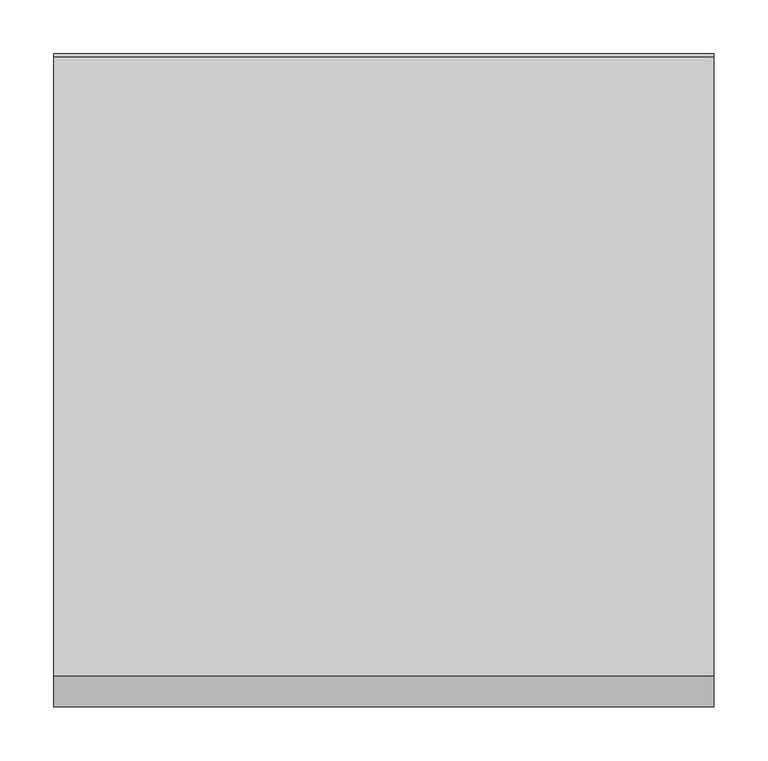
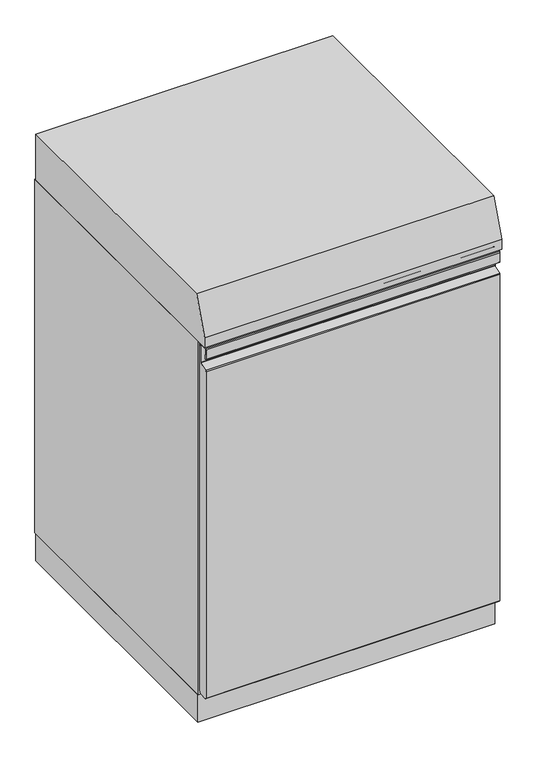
"""IFC4 building model written with IfcOpenShell, lengths in millimetres: proxy geometry, 13101250_DEU_OSP1224WBL : 331B2PSW_DEU_13101250_OSP1224WBL."""

from ifc_helpers import new_model, si_unit, point, frame, frame_2d, origin, origin_with_axes, place, context, project, spatial, polyline, circle_curve, trimmed, segment, composite_curve, outline, extrude, faceted_brep, source, transform, mapped, element, save


def specialty_equipment_2d9e6b35(model_context):
    return source(origin(), model_context, "Body", "SolidModel", [
        extrude(outline(composite_curve([segment(polyline([(2.6999996, 823.5), (2.6999996, 814.5999985)]), True, "CONTINUOUS"), segment(trimmed(circle_curve(frame_2d((1.5999996, 814.5999985)), 1.1), [point((2.6999996, 814.5999985))], [point((0.4999996, 814.5999985))], False, "CARTESIAN"), True, "CONTINUOUS"), segment(polyline([(0.4999996, 814.5999985), (0.4999996, 835.0000001)]), True, "CONTINUOUS"), segment(trimmed(circle_curve(frame_2d((2.4999995, 835.0000001)), 1.9999999), [point((0.4999996, 835.0000001))], [point((2.4999995, 837.0))], False, "CARTESIAN"), True, "CONTINUOUS"), segment(polyline([(2.4999995, 837.0), (21.0, 837.0)]), True, "CONTINUOUS"), segment(trimmed(circle_curve(frame_2d((21.0, 835.0)), 2.0), [point((21.0, 837.0))], [point((23.0, 835.0))], False, "CARTESIAN"), True, "CONTINUOUS"), segment(polyline([(23.0, 835.0), (23.0, 78.1000214), (19.5, 72.5), (2.4999995, 72.5), (0.4999996, 74.4999999), (0.4999996, 787.6206147)]), True, "CONTINUOUS"), segment(trimmed(circle_curve(frame_2d((2.4999996, 787.6206147)), 2.0), [point((0.4999996, 787.6206147))], [point((1.8159593, 789.5))], False, "CARTESIAN"), True, "CONTINUOUS"), segment(polyline([(1.8159593, 789.5), (18.8147235, 795.6870442)]), True, "CONTINUOUS"), segment(trimmed(circle_curve(frame_2d((18.8147235, 796.3723207)), 0.6852765), [point((18.8147235, 795.6870442))], [point((19.5, 796.3723207))], True, "CARTESIAN"), True, "CONTINUOUS"), segment(polyline([(19.5, 796.3723207), (19.5, 833.5), (20.5, 833.5), (20.5, 835.0)]), True, "CONTINUOUS"), segment(trimmed(circle_curve(frame_2d((19.5, 835.0)), 1.0), [point((20.5, 835.0))], [point((19.5, 836.0))], True, "CARTESIAN"), True, "CONTINUOUS"), segment(polyline([(19.5, 836.0), (2.4999995, 836.0)]), True, "CONTINUOUS"), segment(trimmed(circle_curve(frame_2d((2.4999995, 835.0000001)), 0.9999999), [point((2.4999995, 836.0))], [point((1.4999996, 835.0000001))], True, "CARTESIAN"), True, "CONTINUOUS"), segment(polyline([(1.4999996, 835.0000001), (1.4999996, 823.5), (2.6999996, 823.5)]), True, "CONTINUOUS")], self_intersect=False)), frame((-303.5, 0.0, 0.0), z_axis=(1.0, 0.0, 0.0), x_axis=(0.0, 1.0, 0.0)), (0.0, 0.0, 1.0), 607.0),
        extrude(outline(polyline([(28.370519, 941.5), (603.9999916, 941.5), (603.9999916, 841.5), (0.0, 841.5), (0.0, 863.5526396), (28.370519, 941.5)])), frame((-306.75, 0.0, 0.0), z_axis=(1.0, 0.0, 0.0), x_axis=(0.0, 1.0, 0.0)), (0.0, 0.0, 1.0), 613.5),
        extrude(outline(composite_curve([segment(trimmed(circle_curve(frame_2d((230.25, 73.5499878)), 30.0268488), [point((200.2231512, 73.5499878))], [point((260.2768488, 73.5499878))], False, "CARTESIAN"), True, "CONTINUOUS"), segment(trimmed(circle_curve(frame_2d((230.25, 73.5499878)), 30.0268488), [point((260.2768488, 73.5499878))], [point((200.2231512, 73.5499878))], False, "CARTESIAN"), True, "CONTINUOUS")], self_intersect=False)), origin_with_axes(), (0.0, 0.0, 1.0), 69.5),
        extrude(outline(composite_curve([segment(trimmed(circle_curve(frame_2d((-230.25, 73.5499878)), 30.0268488), [point((-260.2768488, 73.5499878))], [point((-200.2231512, 73.5499878))], False, "CARTESIAN"), True, "CONTINUOUS"), segment(trimmed(circle_curve(frame_2d((-230.25, 73.5499878)), 30.0268488), [point((-200.2231512, 73.5499878))], [point((-260.2768488, 73.5499878))], False, "CARTESIAN"), True, "CONTINUOUS")], self_intersect=False)), origin_with_axes(), (0.0, 0.0, 1.0), 69.5),
        extrude(outline(composite_curve([segment(trimmed(circle_curve(frame_2d((230.25, 552.5864926)), 30.0), [point((200.25, 552.5864926))], [point((260.25, 552.5864926))], False, "CARTESIAN"), True, "CONTINUOUS"), segment(trimmed(circle_curve(frame_2d((230.25, 552.5864926)), 30.0), [point((260.25, 552.5864926))], [point((200.25, 552.5864926))], False, "CARTESIAN"), True, "CONTINUOUS")], self_intersect=False)), origin_with_axes(), (0.0, 0.0, 1.0), 69.5),
        extrude(outline(composite_curve([segment(trimmed(circle_curve(frame_2d((-230.25, 552.5864926)), 30.0), [point((-260.25, 552.5864926))], [point((-200.25, 552.5864926))], False, "CARTESIAN"), True, "CONTINUOUS"), segment(trimmed(circle_curve(frame_2d((-230.25, 552.5864926)), 30.0), [point((-200.25, 552.5864926))], [point((-260.25, 552.5864926))], False, "CARTESIAN"), True, "CONTINUOUS")], self_intersect=False)), origin_with_axes(), (0.0, 0.0, 1.0), 69.5),
        extrude(outline(composite_curve([segment(trimmed(circle_curve(frame_2d((25.0028687, -278.25)), 25.0), [point((25.0028687, -303.25))], [point((25.0028687, -253.25))], False, "CARTESIAN"), True, "CONTINUOUS"), segment(trimmed(circle_curve(frame_2d((25.0028687, -278.25)), 25.0), [point((25.0028687, -253.25))], [point((25.0028687, -303.25))], False, "CARTESIAN"), True, "CONTINUOUS")], self_intersect=False)), frame((0.0, 61.0499878, 0.0), z_axis=(0.0, 1.0, 0.0), x_axis=(0.0, 0.0, 1.0)), (0.0, 0.0, 1.0), 25.0),
        extrude(outline(composite_curve([segment(trimmed(circle_curve(frame_2d((25.0028687, -278.25)), 25.0), [point((25.0028687, -303.25))], [point((25.0028687, -253.25))], False, "CARTESIAN"), True, "CONTINUOUS"), segment(trimmed(circle_curve(frame_2d((25.0028687, -278.25)), 25.0), [point((25.0028687, -253.25))], [point((25.0028687, -303.25))], False, "CARTESIAN"), True, "CONTINUOUS")], self_intersect=False)), frame((0.0, 540.0864926, 0.0), z_axis=(0.0, 1.0, 0.0), x_axis=(0.0, 0.0, 1.0)), (0.0, 0.0, 1.0), 25.0),
        extrude(outline(composite_curve([segment(trimmed(circle_curve(frame_2d((25.0028687, 278.25)), 25.0), [point((25.0028687, 303.25))], [point((25.0028687, 253.25))], False, "CARTESIAN"), True, "CONTINUOUS"), segment(trimmed(circle_curve(frame_2d((25.0028687, 278.25)), 25.0), [point((25.0028687, 253.25))], [point((25.0028687, 303.25))], False, "CARTESIAN"), True, "CONTINUOUS")], self_intersect=False)), frame((0.0, 61.0499878, 0.0), z_axis=(0.0, 1.0, 0.0), x_axis=(0.0, 0.0, 1.0)), (0.0, 0.0, 1.0), 25.0),
        extrude(outline(composite_curve([segment(trimmed(circle_curve(frame_2d((25.0029118, 278.2964698)), 25.0), [point((25.0029118, 303.2964698))], [point((25.0029118, 253.2964698))], False, "CARTESIAN"), True, "CONTINUOUS"), segment(trimmed(circle_curve(frame_2d((25.0029118, 278.2964698)), 25.0), [point((25.0029118, 253.2964698))], [point((25.0029118, 303.2964698))], False, "CARTESIAN"), True, "CONTINUOUS")], self_intersect=False)), frame((0.0, 540.0499878, 0.0), z_axis=(0.0, 1.0, 0.0), x_axis=(0.0, 0.0, 1.0)), (0.0, 0.0, 1.0), 25.0),
        faceted_brep([(267.2522624, 51.0927658, 462.1369934), (267.2522624, 51.0927658, 556.1727893), (-267.2522624, 51.0927658, 556.1727893), (-267.2522624, 51.0927658, 462.1369934), (267.2522624, 602.5, 462.1369934), (-267.2522624, 602.5, 462.1369934), (-267.2522624, 602.5, 556.1727893), (267.2522624, 602.5, 556.1727893), (264.2522624, 53.1355045, 556.1727893), (-264.2522624, 53.1355045, 556.1727893), (-264.2522624, 600.5, 556.1727893), (264.2522624, 600.5, 556.1727893), (264.2522624, 53.1355045, 464.1369934), (-264.2522624, 53.1355045, 464.1369934), (-264.2522624, 600.5, 464.1369934), (264.2522624, 600.5, 464.1369934)], [[[0, 1, 2, 3]], [[4, 5, 6, 7]], [[1, 0, 4, 7]], [[2, 1, 7, 6], [8, 9, 10, 11]], [[3, 2, 6, 5]], [[0, 3, 5, 4]], [[12, 13, 9, 8]], [[14, 15, 11, 10]], [[13, 14, 10, 9]], [[13, 12, 15, 14]], [[15, 12, 8, 11]]]),
        faceted_brep([(267.2522624, 51.0927658, 279.1370239), (267.2522624, 51.0927658, 373.1728198), (-267.2522624, 51.0927658, 373.1728198), (-267.2522624, 51.0927658, 279.1370239), (267.2522624, 602.5, 279.1370239), (-267.2522624, 602.5, 279.1370239), (-267.2522624, 602.5, 373.1728198), (267.2522624, 602.5, 373.1728198), (264.2522624, 53.1355045, 373.1728198), (-264.2522624, 53.1355045, 373.1728198), (-264.2522624, 600.5, 373.1728198), (264.2522624, 600.5, 373.1728198), (264.2522624, 53.1355045, 281.1370239), (-264.2522624, 53.1355045, 281.1370239), (-264.2522624, 600.5, 281.1370239), (264.2522624, 600.5, 281.1370239)], [[[0, 1, 2, 3]], [[4, 5, 6, 7]], [[1, 0, 4, 7]], [[2, 1, 7, 6], [8, 9, 10, 11]], [[3, 2, 6, 5]], [[0, 3, 5, 4]], [[12, 13, 9, 8]], [[14, 15, 11, 10]], [[13, 14, 10, 9]], [[13, 12, 15, 14]], [[15, 12, 8, 11]]]),
        faceted_brep([(267.2522624, 51.0927658, 110.1370239), (267.2522624, 51.0927658, 204.1728198), (-267.2522624, 51.0927658, 204.1728198), (-267.2522624, 51.0927658, 110.1370239), (267.2522624, 602.5, 110.1370239), (-267.2522624, 602.5, 110.1370239), (-267.2522624, 602.5, 204.1728198), (267.2522624, 602.5, 204.1728198), (264.2522624, 53.1355045, 204.1728198), (-264.2522624, 53.1355045, 204.1728198), (-264.2522624, 600.5, 204.1728198), (264.2522624, 600.5, 204.1728198), (264.2522624, 53.1355045, 112.1370239), (-264.2522624, 53.1355045, 112.1370239), (-264.2522624, 600.5, 112.1370239), (264.2522624, 600.5, 112.1370239)], [[[0, 1, 2, 3]], [[4, 5, 6, 7]], [[1, 0, 4, 7]], [[2, 1, 7, 6], [8, 9, 10, 11]], [[3, 2, 6, 5]], [[0, 3, 5, 4]], [[12, 13, 9, 8]], [[14, 15, 11, 10]], [[13, 14, 10, 9]], [[13, 12, 15, 14]], [[15, 12, 8, 11]]]),
        faceted_brep([(306.75, 607.0365048, 841.5), (306.75, 607.0365048, 69.5), (-306.75, 607.0365048, 69.5), (-306.75, 607.0365048, 841.5), (306.75, 23.0, 841.5), (-306.75, 23.0, 841.5), (-306.75, 23.0, 69.5), (306.75, 23.0, 69.5), (-280.75, 23.0, 695.5), (280.75, 23.0, 695.5), (280.75, 23.0, 100.5), (-280.75, 23.0, 100.5), (280.75, 602.5365048, 695.5), (-280.75, 602.5365048, 695.5), (-280.75, 602.5365048, 100.5), (280.75, 602.5365048, 100.5)], [[[0, 1, 2, 3]], [[4, 5, 6, 7], [8, 9, 10, 11]], [[0, 3, 5, 4]], [[3, 2, 6, 5]], [[2, 1, 7, 6]], [[1, 0, 4, 7]], [[12, 13, 14, 15]], [[13, 12, 9, 8]], [[14, 13, 8, 11]], [[15, 14, 11, 10]], [[12, 15, 10, 9]]]),
        extrude(outline(polyline([(306.75, 604.1365048), (306.75, 24.0), (-306.75, 24.0), (-306.75, 604.1365048), (306.75, 604.1365048)]), holes=[polyline([(-298.75, 39.0), (298.75, 38.5000004), (298.75, 589.1365048), (-298.75, 589.1365048), (-298.75, 39.0)])]), frame((0.0, 0.0, 9.5), z_axis=(0.0, 0.0, 1.0), x_axis=(1.0, 0.0, 0.0)), (0.0, 0.0, 1.0), 60.0),
    ])


if __name__ == "__main__":
    model = new_model("IFC4")
    model_context = context("Model", 3, world=origin())
    ifc_project = project(units=[si_unit("LENGTHUNIT", "METRE", prefix="MILLI")], contexts=[model_context])
    site = spatial("IfcSite", under=ifc_project)
    building = spatial("IfcBuilding", under=site)
    placement = place(None, origin())
    specialty_equipment_shape = specialty_equipment_2d9e6b35(model_context)
    element("IfcBuildingElementProxy", 1, Name="13101250_DEU_OSP1224WBL : 331B2PSW_DEU_13101250_OSP1224WBL", ObjectType="13101250_DEU_OSP1224WBL : 331B2PSW_DEU_13101250_OSP1224WBL", at=placement, inside=building, context=model_context, shape_type="MappedRepresentation", body=[
        mapped(specialty_equipment_shape, transform((0.0, 0.0, 0.0), x_axis=(1.0, 0.0, 0.0), y_axis=(0.0, 1.0, 0.0), z_axis=(0.0, 0.0, 1.0))),
    ])
    save(model, "model.ifc")
